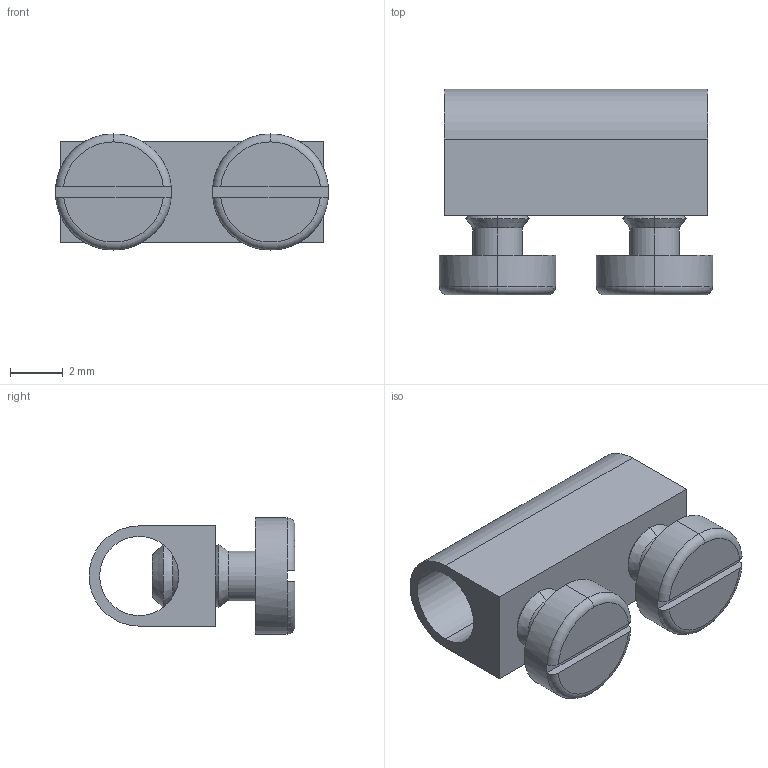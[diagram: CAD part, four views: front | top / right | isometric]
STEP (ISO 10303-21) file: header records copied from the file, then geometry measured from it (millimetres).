
FILE_DESCRIPTION (( 'STEP AP214' ), '1' );
FILE_NAME ('Conjunt electric.STEP', '2017-12-04T12:06:46', ( 'aaa' ), ( '' ), 'SwSTEP 2.0', 'SolidWorks 2013', '' );
FILE_SCHEMA (( 'AUTOMOTIVE_DESIGN' ));
Length unit declared in the file: millimetre
Products named in the file (3): Terminal; Cargol 2.5 x 4.7 PP58; Conjunt electric
Assembly tree (3 placements, depth 2):
  Conjunt electric
    Terminal
    Cargol 2.5 x 4.7 PP58  x2
Bounding box: 10.35 x 7.8 x 4.4 mm (x, y, z)
Volume: 158.2 mm3; surface area: 438.2 mm2
Topology: 3 solids, 3 shells, 72 faces, 150 edges, 86 vertices
Faces by surface type: cone 32, plane 19, cylinder 15, torus 6
Entity records: 1334 total; most frequent: CARTESIAN_POINT 283, DIRECTION 220, ORIENTED_EDGE 180, EDGE_CURVE 90, AXIS2_PLACEMENT_3D 90, VERTEX_POINT 53, EDGE_LOOP 49, ADVANCED_FACE 42
